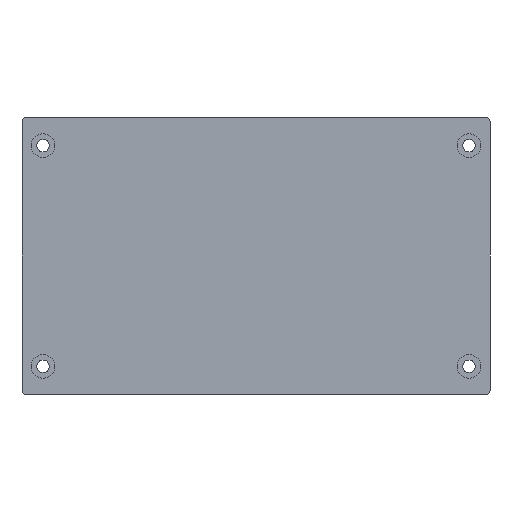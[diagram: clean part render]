
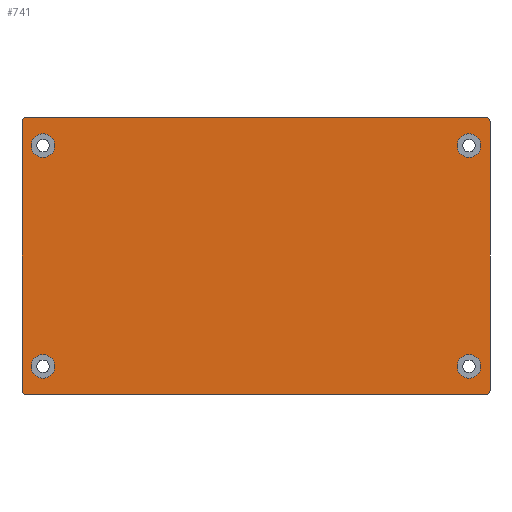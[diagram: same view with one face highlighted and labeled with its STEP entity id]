
A CAD part, front view. The second image highlights one B-rep face of the part: STEP entity #741.
In plain terms, the highlighted planar face has unit normal (0, -1, 0).
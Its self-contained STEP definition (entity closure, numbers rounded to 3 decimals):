
#13 = CARTESIAN_POINT ( 'NONE',  ( -53.575, 0., 31.35 ) ) ;
#24 = EDGE_LOOP ( 'NONE', ( #1644, #1073 ) ) ;
#27 = CARTESIAN_POINT ( 'NONE',  ( 53.575, 0., 32.35 ) ) ;
#37 = ORIENTED_EDGE ( 'NONE', *, *, #1697, .F. ) ;
#91 = CARTESIAN_POINT ( 'NONE',  ( -49.675, 0., 25.725 ) ) ;
#93 = CIRCLE ( 'NONE', #1194, 1. ) ;
#95 = AXIS2_PLACEMENT_3D ( 'NONE', #1380, #531, #1542 ) ;
#96 = CIRCLE ( 'NONE', #1379, 1. ) ;
#99 = AXIS2_PLACEMENT_3D ( 'NONE', #515, #1523, #659 ) ;
#103 = CARTESIAN_POINT ( 'NONE',  ( 49.675, 0., 25.725 ) ) ;
#126 = DIRECTION ( 'NONE',  ( 0., 0., 1. ) ) ;
#140 = CARTESIAN_POINT ( 'NONE',  ( 49.675, 0., 22.975 ) ) ;
#147 = DIRECTION ( 'NONE',  ( 0., 0., -1. ) ) ;
#149 = ORIENTED_EDGE ( 'NONE', *, *, #1038, .F. ) ;
#162 = AXIS2_PLACEMENT_3D ( 'NONE', #1246, #397, #1387 ) ;
#173 = AXIS2_PLACEMENT_3D ( 'NONE', #13, #982, #147 ) ;
#187 = CARTESIAN_POINT ( 'NONE',  ( -53.575, 0., 32.35 ) ) ;
#210 = VERTEX_POINT ( 'NONE', #187 ) ;
#236 = DIRECTION ( 'NONE',  ( 0., 0., -1. ) ) ;
#252 = DIRECTION ( 'NONE',  ( 0., 0., -1. ) ) ;
#262 = ORIENTED_EDGE ( 'NONE', *, *, #1319, .F. ) ;
#282 = VECTOR ( 'NONE', #486, 1000. ) ;
#311 = DIRECTION ( 'NONE',  ( 0., 0., 1. ) ) ;
#322 = LINE ( 'NONE', #1333, #282 ) ;
#343 = AXIS2_PLACEMENT_3D ( 'NONE', #763, #1851, #905 ) ;
#350 = VECTOR ( 'NONE', #1358, 1000. ) ;
#359 = LINE ( 'NONE', #1223, #350 ) ;
#390 = CIRCLE ( 'NONE', #99, 2.75 ) ;
#397 = DIRECTION ( 'NONE',  ( 0., 1., 0. ) ) ;
#404 = CARTESIAN_POINT ( 'NONE',  ( 49.675, 0., -25.725 ) ) ;
#416 = CIRCLE ( 'NONE', #1202, 2.75 ) ;
#422 = DIRECTION ( 'NONE',  ( 0., 1., 0. ) ) ;
#436 = CARTESIAN_POINT ( 'NONE',  ( -53.575, 0., -32.35 ) ) ;
#437 = AXIS2_PLACEMENT_3D ( 'NONE', #91, #1089, #236 ) ;
#438 = CIRCLE ( 'NONE', #791, 1. ) ;
#442 = VERTEX_POINT ( 'NONE', #848 ) ;
#459 = AXIS2_PLACEMENT_3D ( 'NONE', #1569, #693, #1744 ) ;
#486 = DIRECTION ( 'NONE',  ( 1., 0., 0. ) ) ;
#511 = CIRCLE ( 'NONE', #437, 2.75 ) ;
#515 = CARTESIAN_POINT ( 'NONE',  ( 49.675, 0., 25.725 ) ) ;
#528 = VERTEX_POINT ( 'NONE', #140 ) ;
#531 = DIRECTION ( 'NONE',  ( 0., -1., 0. ) ) ;
#546 = DIRECTION ( 'NONE',  ( 0., 0., -1. ) ) ;
#575 = CIRCLE ( 'NONE', #459, 2.75 ) ;
#603 = CIRCLE ( 'NONE', #1341, 2.75 ) ;
#614 = AXIS2_PLACEMENT_3D ( 'NONE', #103, #1098, #252 ) ;
#621 = CARTESIAN_POINT ( 'NONE',  ( 49.675, 0., 28.475 ) ) ;
#625 = CIRCLE ( 'NONE', #614, 2.75 ) ;
#627 = VECTOR ( 'NONE', #311, 1000. ) ;
#630 = LINE ( 'NONE', #722, #627 ) ;
#640 = CARTESIAN_POINT ( 'NONE',  ( -49.675, 0., 25.725 ) ) ;
#659 = DIRECTION ( 'NONE',  ( 0., 0., -1. ) ) ;
#693 = DIRECTION ( 'NONE',  ( 0., -1., 0. ) ) ;
#722 = CARTESIAN_POINT ( 'NONE',  ( -54.575, 0., -31.35 ) ) ;
#741 = ADVANCED_FACE ( 'NONE', ( #963, #960, #943, #947, #939 ), #1771, .T. ) ;
#744 = CARTESIAN_POINT ( 'NONE',  ( 49.675, 0., -28.475 ) ) ;
#754 = DIRECTION ( 'NONE',  ( 0., 0., -1. ) ) ;
#763 = CARTESIAN_POINT ( 'NONE',  ( 49.675, 0., -25.725 ) ) ;
#776 = DIRECTION ( 'NONE',  ( -1., 0., 0. ) ) ;
#787 = CIRCLE ( 'NONE', #95, 2.75 ) ;
#791 = AXIS2_PLACEMENT_3D ( 'NONE', #810, #1911, #954 ) ;
#795 = CARTESIAN_POINT ( 'NONE',  ( -54.575, 0., 31.35 ) ) ;
#800 = CIRCLE ( 'NONE', #162, 1. ) ;
#810 = CARTESIAN_POINT ( 'NONE',  ( -53.575, 0., -31.35 ) ) ;
#834 = CIRCLE ( 'NONE', #343, 2.75 ) ;
#846 = EDGE_CURVE ( 'NONE', #442, #1574, #923, .T. ) ;
#848 = CARTESIAN_POINT ( 'NONE',  ( 53.575, 0., -32.35 ) ) ;
#880 = VECTOR ( 'NONE', #776, 1000. ) ;
#905 = DIRECTION ( 'NONE',  ( 0., 0., -1. ) ) ;
#923 = LINE ( 'NONE', #436, #880 ) ;
#931 = CARTESIAN_POINT ( 'NONE',  ( -49.675, 0., -28.475 ) ) ;
#939 = FACE_OUTER_BOUND ( 'NONE', #1492, .T. ) ;
#943 = FACE_BOUND ( 'NONE', #1441, .T. ) ;
#947 = FACE_BOUND ( 'NONE', #24, .T. ) ;
#954 = DIRECTION ( 'NONE',  ( 0., 0., 1. ) ) ;
#956 = EDGE_CURVE ( 'NONE', #1847, #1104, #834, .T. ) ;
#958 = DIRECTION ( 'NONE',  ( 0., 1., 0. ) ) ;
#960 = FACE_BOUND ( 'NONE', #1402, .T. ) ;
#963 = FACE_BOUND ( 'NONE', #1813, .T. ) ;
#982 = DIRECTION ( 'NONE',  ( 0., -1., 0. ) ) ;
#1038 = EDGE_CURVE ( 'NONE', #1604, #1306, #787, .T. ) ;
#1060 = VERTEX_POINT ( 'NONE', #1526 ) ;
#1066 = EDGE_CURVE ( 'NONE', #1829, #1403, #800, .T. ) ;
#1073 = ORIENTED_EDGE ( 'NONE', *, *, #1537, .F. ) ;
#1089 = DIRECTION ( 'NONE',  ( 0., -1., 0. ) ) ;
#1098 = DIRECTION ( 'NONE',  ( 0., -1., 0. ) ) ;
#1104 = VERTEX_POINT ( 'NONE', #744 ) ;
#1119 = CARTESIAN_POINT ( 'NONE',  ( -49.675, 0., 22.975 ) ) ;
#1181 = ORIENTED_EDGE ( 'NONE', *, *, #1505, .F. ) ;
#1194 = AXIS2_PLACEMENT_3D ( 'NONE', #1914, #958, #126 ) ;
#1202 = AXIS2_PLACEMENT_3D ( 'NONE', #640, #1665, #754 ) ;
#1214 = VERTEX_POINT ( 'NONE', #795 ) ;
#1223 = CARTESIAN_POINT ( 'NONE',  ( 54.575, 0., -31.35 ) ) ;
#1246 = CARTESIAN_POINT ( 'NONE',  ( 53.575, 0., 31.35 ) ) ;
#1260 = ORIENTED_EDGE ( 'NONE', *, *, #846, .F. ) ;
#1266 = EDGE_CURVE ( 'NONE', #1783, #1214, #630, .T. ) ;
#1269 = CARTESIAN_POINT ( 'NONE',  ( -53.575, 0., 31.35 ) ) ;
#1297 = EDGE_CURVE ( 'NONE', #528, #1648, #625, .T. ) ;
#1301 = ORIENTED_EDGE ( 'NONE', *, *, #1619, .F. ) ;
#1306 = VERTEX_POINT ( 'NONE', #931 ) ;
#1319 = EDGE_CURVE ( 'NONE', #1104, #1847, #603, .T. ) ;
#1333 = CARTESIAN_POINT ( 'NONE',  ( -53.575, 0., 32.35 ) ) ;
#1341 = AXIS2_PLACEMENT_3D ( 'NONE', #404, #1396, #546 ) ;
#1355 = CARTESIAN_POINT ( 'NONE',  ( -49.675, 0., -22.975 ) ) ;
#1357 = EDGE_CURVE ( 'NONE', #1306, #1604, #575, .T. ) ;
#1358 = DIRECTION ( 'NONE',  ( 0., 0., -1. ) ) ;
#1359 = ORIENTED_EDGE ( 'NONE', *, *, #1297, .F. ) ;
#1371 = ORIENTED_EDGE ( 'NONE', *, *, #1357, .F. ) ;
#1379 = AXIS2_PLACEMENT_3D ( 'NONE', #1269, #422, #1419 ) ;
#1380 = CARTESIAN_POINT ( 'NONE',  ( -49.675, 0., -25.725 ) ) ;
#1387 = DIRECTION ( 'NONE',  ( 0., 0., -1. ) ) ;
#1396 = DIRECTION ( 'NONE',  ( 0., -1., 0. ) ) ;
#1402 = EDGE_LOOP ( 'NONE', ( #262, #1504 ) ) ;
#1403 = VERTEX_POINT ( 'NONE', #1531 ) ;
#1404 = EDGE_CURVE ( 'NONE', #1516, #1060, #511, .T. ) ;
#1419 = DIRECTION ( 'NONE',  ( 0., 0., -1. ) ) ;
#1441 = EDGE_LOOP ( 'NONE', ( #1371, #149 ) ) ;
#1492 = EDGE_LOOP ( 'NONE', ( #1769, #1740, #1181, #1260, #1846, #1301, #1520, #37 ) ) ;
#1503 = CARTESIAN_POINT ( 'NONE',  ( -53.575, 0., -32.35 ) ) ;
#1504 = ORIENTED_EDGE ( 'NONE', *, *, #956, .F. ) ;
#1505 = EDGE_CURVE ( 'NONE', #1574, #1783, #438, .T. ) ;
#1516 = VERTEX_POINT ( 'NONE', #1119 ) ;
#1520 = ORIENTED_EDGE ( 'NONE', *, *, #1066, .F. ) ;
#1523 = DIRECTION ( 'NONE',  ( 0., -1., 0. ) ) ;
#1526 = CARTESIAN_POINT ( 'NONE',  ( -49.675, 0., 28.475 ) ) ;
#1531 = CARTESIAN_POINT ( 'NONE',  ( 54.575, 0., 31.35 ) ) ;
#1537 = EDGE_CURVE ( 'NONE', #1060, #1516, #416, .T. ) ;
#1542 = DIRECTION ( 'NONE',  ( 0., 0., -1. ) ) ;
#1569 = CARTESIAN_POINT ( 'NONE',  ( -49.675, 0., -25.725 ) ) ;
#1574 = VERTEX_POINT ( 'NONE', #1503 ) ;
#1597 = CARTESIAN_POINT ( 'NONE',  ( -54.575, 0., -31.35 ) ) ;
#1604 = VERTEX_POINT ( 'NONE', #1355 ) ;
#1607 = ORIENTED_EDGE ( 'NONE', *, *, #1616, .F. ) ;
#1616 = EDGE_CURVE ( 'NONE', #1648, #528, #390, .T. ) ;
#1619 = EDGE_CURVE ( 'NONE', #1403, #1860, #359, .T. ) ;
#1622 = CARTESIAN_POINT ( 'NONE',  ( 49.675, 0., -22.975 ) ) ;
#1644 = ORIENTED_EDGE ( 'NONE', *, *, #1404, .F. ) ;
#1648 = VERTEX_POINT ( 'NONE', #621 ) ;
#1665 = DIRECTION ( 'NONE',  ( 0., -1., 0. ) ) ;
#1697 = EDGE_CURVE ( 'NONE', #210, #1829, #322, .T. ) ;
#1740 = ORIENTED_EDGE ( 'NONE', *, *, #1266, .F. ) ;
#1744 = DIRECTION ( 'NONE',  ( 0., 0., -1. ) ) ;
#1769 = ORIENTED_EDGE ( 'NONE', *, *, #1876, .F. ) ;
#1771 = PLANE ( 'NONE',  #173 ) ;
#1783 = VERTEX_POINT ( 'NONE', #1597 ) ;
#1795 = CARTESIAN_POINT ( 'NONE',  ( 54.575, 0., -31.35 ) ) ;
#1813 = EDGE_LOOP ( 'NONE', ( #1359, #1607 ) ) ;
#1829 = VERTEX_POINT ( 'NONE', #27 ) ;
#1846 = ORIENTED_EDGE ( 'NONE', *, *, #1874, .F. ) ;
#1847 = VERTEX_POINT ( 'NONE', #1622 ) ;
#1851 = DIRECTION ( 'NONE',  ( 0., -1., 0. ) ) ;
#1860 = VERTEX_POINT ( 'NONE', #1795 ) ;
#1874 = EDGE_CURVE ( 'NONE', #1860, #442, #93, .T. ) ;
#1876 = EDGE_CURVE ( 'NONE', #1214, #210, #96, .T. ) ;
#1911 = DIRECTION ( 'NONE',  ( 0., 1., 0. ) ) ;
#1914 = CARTESIAN_POINT ( 'NONE',  ( 53.575, 0., -31.35 ) ) ;
